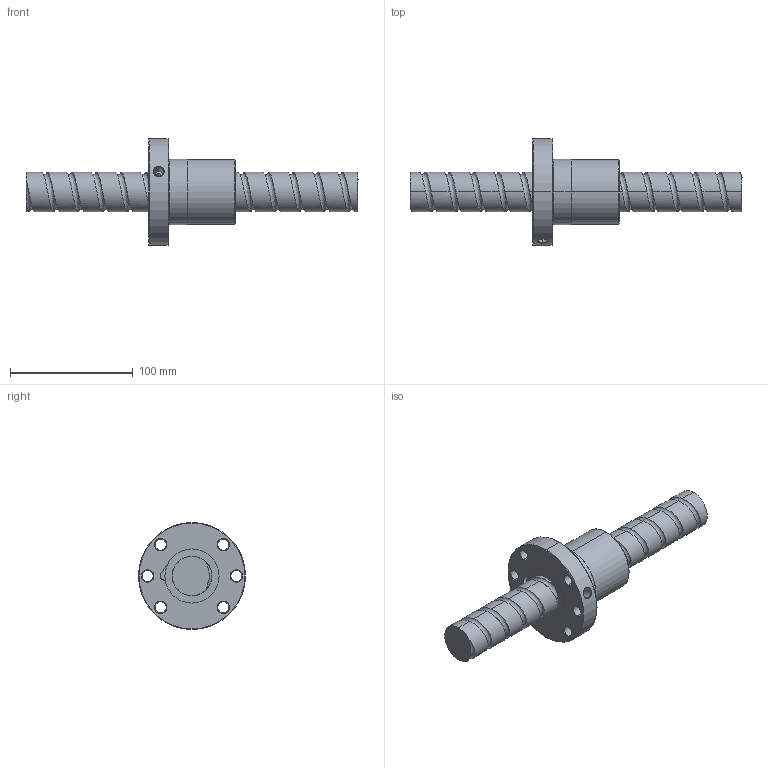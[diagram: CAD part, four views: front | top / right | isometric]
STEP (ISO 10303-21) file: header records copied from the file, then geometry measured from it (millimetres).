
FILE_DESCRIPTION (( 'STEP AP214' ), '1' );
FILE_NAME ('FSDC03220T2-D-A.STEP', '2010-06-25T12:02:48', ( 'XPAUTO' ), ( 'XPAUTO' ), 'SwSTEP 2.0', 'SolidWorks 2007', '' );
FILE_SCHEMA (( 'AUTOMOTIVE_DESIGN' ));
Length unit declared in the file: millimetre
Products named in the file (3): FSDC03220T2-D-A.sldasm-Part-2_預設; FSDC03220T2-D-A.sldasm-Part-1_預設; FSDC03220T2-D-A
Assembly tree (2 placements, depth 2):
  FSDC03220T2-D-A
    FSDC03220T2-D-A.sldasm-Part-1_預設
    FSDC03220T2-D-A.sldasm-Part-2_預設
Bounding box: 270 x 87 x 87 mm (x, y, z)
Volume: 357792.8 mm3; surface area: 63950.9 mm2
Topology: 2 solids, 2 shells, 119 faces, 295 edges, 185 vertices
Faces by surface type: cylinder 68, cone 24, plane 16, torus 6, bspline 5
Entity records: 24690 total; most frequent: CARTESIAN_POINT 21821, ORIENTED_EDGE 590, DIRECTION 573, EDGE_CURVE 295, AXIS2_PLACEMENT_3D 237, VERTEX_POINT 185, EDGE_LOOP 140, FACE_OUTER_BOUND 119
